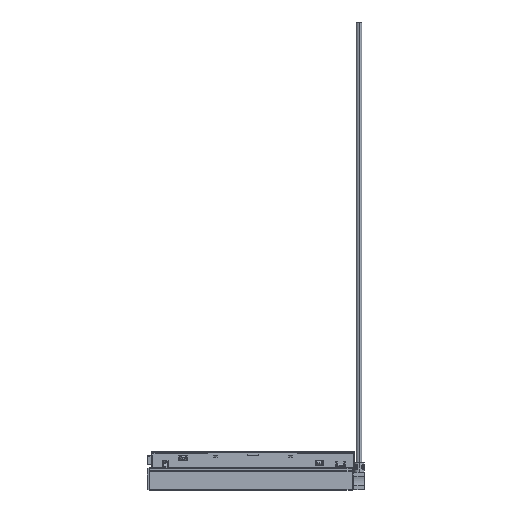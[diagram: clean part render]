
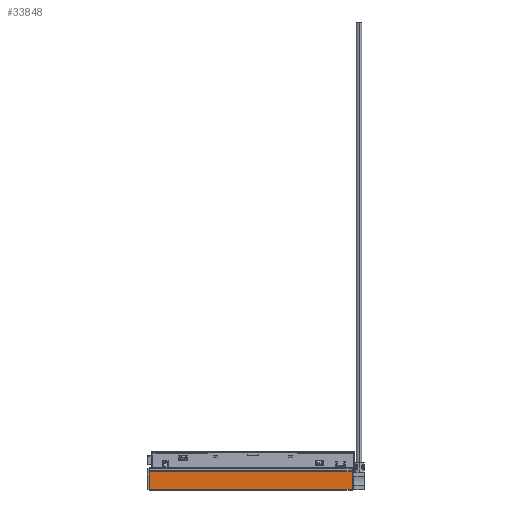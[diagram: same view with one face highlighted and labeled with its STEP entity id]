
A CAD part, left-side view. The second image highlights one B-rep face of the part: STEP entity #33848.
In plain terms, the highlighted planar face has unit normal (-1, 0, 0).
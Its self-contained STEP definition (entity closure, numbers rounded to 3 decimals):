
#33451=DIRECTION('',(0.,0.,1.));
#33452=VECTOR('',#33451,20.6);
#33453=CARTESIAN_POINT('',(0.,-115.,0.));
#33454=LINE('',#33453,#33452);
#33464=DIRECTION('',(0.,1.,0.));
#33465=VECTOR('',#33464,230.);
#33466=CARTESIAN_POINT('',(0.,-115.,20.6));
#33467=LINE('',#33466,#33465);
#33468=DIRECTION('',(0.,1.,0.));
#33469=VECTOR('',#33468,230.);
#33470=CARTESIAN_POINT('',(0.,-115.,0.));
#33471=LINE('',#33470,#33469);
#33565=DIRECTION('',(0.,0.,1.));
#33566=VECTOR('',#33565,20.6);
#33567=CARTESIAN_POINT('',(0.,115.,0.));
#33568=LINE('',#33567,#33566);
#33698=CARTESIAN_POINT('',(0.,-115.,0.));
#33699=VERTEX_POINT('',#33698);
#33700=CARTESIAN_POINT('',(0.,-115.,20.6));
#33701=VERTEX_POINT('',#33700);
#33746=CARTESIAN_POINT('',(0.,115.,0.));
#33747=VERTEX_POINT('',#33746);
#33748=CARTESIAN_POINT('',(0.,115.,20.6));
#33749=VERTEX_POINT('',#33748);
#33835=CARTESIAN_POINT('',(0.,-115.,0.));
#33836=DIRECTION('',(-1.,0.,0.));
#33837=DIRECTION('',(0.,0.,1.));
#33838=AXIS2_PLACEMENT_3D('',#33835,#33836,#33837);
#33839=PLANE('',#33838);
#33840=ORIENTED_EDGE('',*,*,#33799,.F.);
#33842=ORIENTED_EDGE('',*,*,#33841,.T.);
#33844=ORIENTED_EDGE('',*,*,#33843,.T.);
#33845=ORIENTED_EDGE('',*,*,#33827,.F.);
#33846=EDGE_LOOP('',(#33840,#33842,#33844,#33845));
#33847=FACE_OUTER_BOUND('',#33846,.F.);
#33848=ADVANCED_FACE('',(#33847),#33839,.T.);
#33799=EDGE_CURVE('',#33699,#33701,#33454,.T.);
#33827=EDGE_CURVE('',#33701,#33749,#33467,.T.);
#33841=EDGE_CURVE('',#33699,#33747,#33471,.T.);
#33843=EDGE_CURVE('',#33747,#33749,#33568,.T.);
